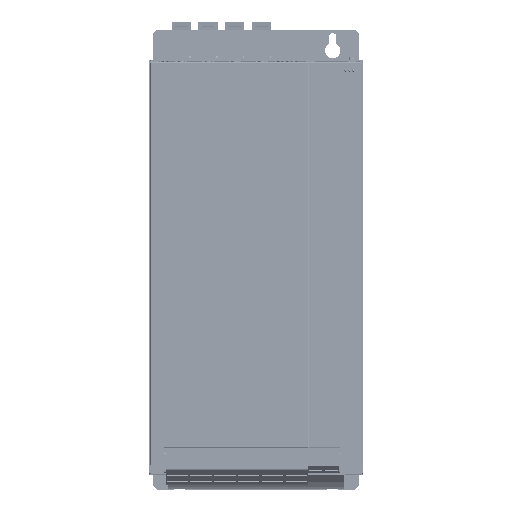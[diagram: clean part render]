
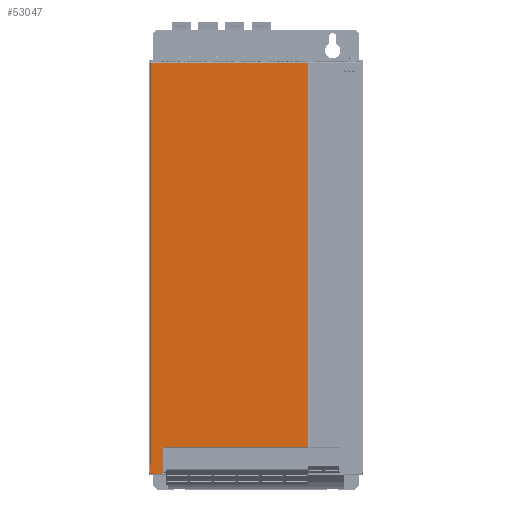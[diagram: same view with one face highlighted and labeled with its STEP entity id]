
A CAD part, top view. The second image highlights one B-rep face of the part: STEP entity #53047.
In plain terms, the highlighted planar face has unit normal (0, 0, 1) as drawn and (0, 1, 0) by its records, which use the part's own axes.
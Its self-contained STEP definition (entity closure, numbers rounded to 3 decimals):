
#3641 = CARTESIAN_POINT ( 'NONE',  ( -274.5, 40., 537.25 ) ) ;
#3679 = CARTESIAN_POINT ( 'NONE',  ( -259., 40., 502.5 ) ) ;
#3684 = CARTESIAN_POINT ( 'NONE',  ( -258., 40., 502.5 ) ) ;
#53047 = ADVANCED_FACE ( 'NONE', ( #241417 ), #251050, .F. ) ;
#101803 = EDGE_CURVE ( 'NONE', #257999, #258006, #254750, .T. ) ;
#101846 = EDGE_CURVE ( 'NONE', #257946, #222787, #254816, .T. ) ;
#101848 = EDGE_CURVE ( 'NONE', #222787, #222795, #254847, .T. ) ;
#101851 = EDGE_CURVE ( 'NONE', #222795, #257999, #254854, .T. ) ;
#101852 = EDGE_CURVE ( 'NONE', #258006, #222791, #254858, .T. ) ;
#101855 = EDGE_CURVE ( 'NONE', #222791, #222801, #254864, .T. ) ;
#101858 = EDGE_CURVE ( 'NONE', #222801, #222805, #254870, .T. ) ;
#101861 = EDGE_CURVE ( 'NONE', #222765, #222805, #254877, .T. ) ;
#101863 = EDGE_CURVE ( 'NONE', #222773, #222765, #254840, .T. ) ;
#101866 = EDGE_CURVE ( 'NONE', #222773, #222817, #254883, .T. ) ;
#101870 = EDGE_CURVE ( 'NONE', #222817, #222819, #254896, .T. ) ;
#101872 = EDGE_CURVE ( 'NONE', #222819, #257946, #254901, .T. ) ;
#132938 = ORIENTED_EDGE ( 'NONE', *, *, #101846, .T. ) ;
#132942 = ORIENTED_EDGE ( 'NONE', *, *, #101848, .T. ) ;
#132947 = ORIENTED_EDGE ( 'NONE', *, *, #101851, .T. ) ;
#132950 = ORIENTED_EDGE ( 'NONE', *, *, #101803, .T. ) ;
#132954 = ORIENTED_EDGE ( 'NONE', *, *, #101852, .T. ) ;
#132957 = ORIENTED_EDGE ( 'NONE', *, *, #101855, .T. ) ;
#132961 = ORIENTED_EDGE ( 'NONE', *, *, #101858, .T. ) ;
#132966 = ORIENTED_EDGE ( 'NONE', *, *, #101861, .F. ) ;
#132972 = ORIENTED_EDGE ( 'NONE', *, *, #101863, .F. ) ;
#132976 = ORIENTED_EDGE ( 'NONE', *, *, #101866, .T. ) ;
#132980 = ORIENTED_EDGE ( 'NONE', *, *, #101870, .T. ) ;
#132983 = ORIENTED_EDGE ( 'NONE', *, *, #101872, .T. ) ;
#222765 = VERTEX_POINT ( 'NONE', #295635 ) ;
#222773 = VERTEX_POINT ( 'NONE', #295639 ) ;
#222787 = VERTEX_POINT ( 'NONE', #295651 ) ;
#222791 = VERTEX_POINT ( 'NONE', #295654 ) ;
#222795 = VERTEX_POINT ( 'NONE', #295657 ) ;
#222801 = VERTEX_POINT ( 'NONE', #295642 ) ;
#222805 = VERTEX_POINT ( 'NONE', #295668 ) ;
#222817 = VERTEX_POINT ( 'NONE', #295678 ) ;
#222819 = VERTEX_POINT ( 'NONE', #295664 ) ;
#241417 = FACE_OUTER_BOUND ( 'NONE', #267153, .T. ) ;
#251027 = CARTESIAN_POINT ( 'NONE',  ( -69., 40., 536. ) ) ;
#251050 = PLANE ( 'NONE',  #294652 ) ;
#251054 = DIRECTION ( 'NONE',  ( 0., -1., 0. ) ) ;
#251056 = DIRECTION ( 'NONE',  ( 1., 0., 0. ) ) ;
#252251 = CARTESIAN_POINT ( 'NONE',  ( -69., 40., 502.5 ) ) ;
#252256 = DIRECTION ( 'NONE',  ( 1., 0., 0. ) ) ;
#252363 = CARTESIAN_POINT ( 'NONE',  ( -259., 40., 537.25 ) ) ;
#252379 = CARTESIAN_POINT ( 'NONE',  ( -274.5, 40., 536. ) ) ;
#252416 = CARTESIAN_POINT ( 'NONE',  ( -274.5, 40., 526.5 ) ) ;
#252423 = DIRECTION ( 'NONE',  ( 1., 0., 0. ) ) ;
#252433 = CARTESIAN_POINT ( 'NONE',  ( -260.5, 40., 537.25 ) ) ;
#252439 = DIRECTION ( 'NONE',  ( 0.707, 0., -0.707 ) ) ;
#252442 = CARTESIAN_POINT ( 'NONE',  ( -259., 40., 536. ) ) ;
#252449 = DIRECTION ( 'NONE',  ( 0., 0., -1. ) ) ;
#252453 = CARTESIAN_POINT ( 'NONE',  ( -258., 40., 502.5 ) ) ;
#252459 = DIRECTION ( 'NONE',  ( 1., 0., 0. ) ) ;
#252464 = CARTESIAN_POINT ( 'NONE',  ( -70.5, 40., 536. ) ) ;
#252470 = DIRECTION ( 'NONE',  ( 0., 0., -1. ) ) ;
#252472 = CARTESIAN_POINT ( 'NONE',  ( -70.5, 40., 1.5 ) ) ;
#252478 = DIRECTION ( 'NONE',  ( -1., 0., 0. ) ) ;
#252482 = CARTESIAN_POINT ( 'NONE',  ( -274.5, 40., 536. ) ) ;
#252492 = DIRECTION ( 'NONE',  ( 0., 0., -1. ) ) ;
#252496 = DIRECTION ( 'NONE',  ( 0., 0., -1. ) ) ;
#252506 = DIRECTION ( 'NONE',  ( -1., 0., 0. ) ) ;
#252515 = CARTESIAN_POINT ( 'NONE',  ( -276., 40., 536. ) ) ;
#252522 = DIRECTION ( 'NONE',  ( 0., 0., 1. ) ) ;
#252526 = CARTESIAN_POINT ( 'NONE',  ( -276., 40., 535.75 ) ) ;
#252530 = DIRECTION ( 'NONE',  ( 0.707, 0., 0.707 ) ) ;
#254750 = LINE ( 'NONE', #252251, #254758 ) ;
#254758 = VECTOR ( 'NONE', #252256, 1000. ) ;
#254816 = LINE ( 'NONE', #252363, #254850 ) ;
#254840 = LINE ( 'NONE', #252379, #254894 ) ;
#254847 = LINE ( 'NONE', #252433, #254856 ) ;
#254850 = VECTOR ( 'NONE', #252423, 1000. ) ;
#254854 = LINE ( 'NONE', #252442, #254861 ) ;
#254856 = VECTOR ( 'NONE', #252439, 1000. ) ;
#254858 = LINE ( 'NONE', #252453, #254867 ) ;
#254861 = VECTOR ( 'NONE', #252449, 1000. ) ;
#254864 = LINE ( 'NONE', #252464, #254874 ) ;
#254867 = VECTOR ( 'NONE', #252459, 1000. ) ;
#254870 = LINE ( 'NONE', #252472, #254880 ) ;
#254874 = VECTOR ( 'NONE', #252470, 1000. ) ;
#254877 = LINE ( 'NONE', #252482, #254886 ) ;
#254880 = VECTOR ( 'NONE', #252478, 1000. ) ;
#254883 = LINE ( 'NONE', #252416, #254898 ) ;
#254886 = VECTOR ( 'NONE', #252492, 1000. ) ;
#254894 = VECTOR ( 'NONE', #252496, 1000. ) ;
#254896 = LINE ( 'NONE', #252515, #254904 ) ;
#254898 = VECTOR ( 'NONE', #252506, 1000. ) ;
#254901 = LINE ( 'NONE', #252526, #254910 ) ;
#254904 = VECTOR ( 'NONE', #252522, 1000. ) ;
#254910 = VECTOR ( 'NONE', #252530, 1000. ) ;
#257946 = VERTEX_POINT ( 'NONE', #3641 ) ;
#257999 = VERTEX_POINT ( 'NONE', #3679 ) ;
#258006 = VERTEX_POINT ( 'NONE', #3684 ) ;
#267153 = EDGE_LOOP ( 'NONE', ( #132938, #132942, #132947, #132950, #132954, #132957, #132961, #132966, #132972, #132976, #132980, #132983 ) ) ;
#294652 = AXIS2_PLACEMENT_3D ( 'NONE', #251027, #251054, #251056 ) ;
#295635 = CARTESIAN_POINT ( 'NONE',  ( -274.5, 40., 526. ) ) ;
#295639 = CARTESIAN_POINT ( 'NONE',  ( -274.5, 40., 526.5 ) ) ;
#295642 = CARTESIAN_POINT ( 'NONE',  ( -70.5, 40., 1.5 ) ) ;
#295651 = CARTESIAN_POINT ( 'NONE',  ( -260.5, 40., 537.25 ) ) ;
#295654 = CARTESIAN_POINT ( 'NONE',  ( -70.5, 40., 502.5 ) ) ;
#295657 = CARTESIAN_POINT ( 'NONE',  ( -259., 40., 535.75 ) ) ;
#295664 = CARTESIAN_POINT ( 'NONE',  ( -276., 40., 535.75 ) ) ;
#295668 = CARTESIAN_POINT ( 'NONE',  ( -274.5, 40., 1.5 ) ) ;
#295678 = CARTESIAN_POINT ( 'NONE',  ( -276., 40., 526.5 ) ) ;
